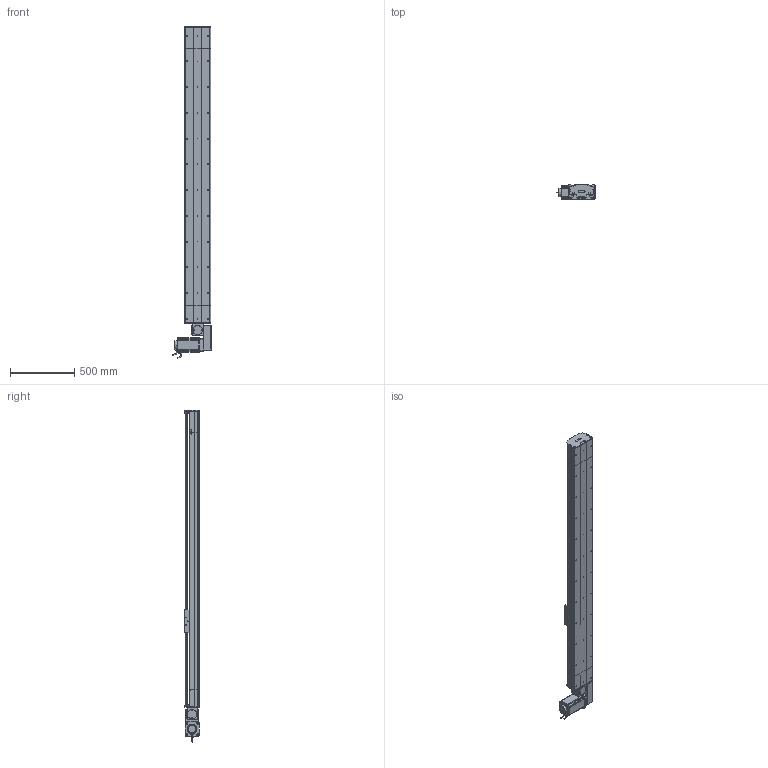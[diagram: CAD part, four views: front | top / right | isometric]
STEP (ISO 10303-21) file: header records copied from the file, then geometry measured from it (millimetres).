
FILE_DESCRIPTION (( 'STEP AP214' ), '1' );
FILE_NAME ('D20 TBH LH S2000.STEP', '2010-07-01T07:47:28', ( 'Conseil Régional Haute-Normandie' ), ( 'Conseil Régional Haute-Normandie' ), 'SwSTEP 2.0', 'SolidWorks 2010', '' );
FILE_SCHEMA (( 'AUTOMOTIVE_DESIGN' ));
Length unit declared in the file: millimetre
Products named in the file (40): rail + couroie  D20 S2000; couroie_Default; head LH_Default; plaque de  bout head D20B LH_Default; poulie head D20_Default; couvercle head D20_Default; rail head D20; corpl head D20_Default; vis M5 L8 90°_Default; cache D20_Default; cache arbre D20_Default; tail D20_Default; vis M8 L12_Default; avant 110BLDC170A-630x; vis M5 L12_Default; tete d''axe poulie D20B; corps 110BLDC170A-630x; rail tail D20; clavette; Conecteur_Default; Conecteur2_Default; vis M5 L70_Default; Plaque racord D20LH_Default; plaque de  bout tail D20_Default; poulie tail D20_Default; codeur 110BLDC170A-630x; couvercle tail D20_Default; Couroie tail D20_Default; Moteur motionking 110BLDC170A-640x; Renvoi LH D20_Default; vis M5 L5_Default; corpl tail D20_Default; vis M5 L25_Default; corp D20 S2000_Default; Course B L2000_Default; Chariot D20B; chariot D20B_Default; couvercle D20 S2000_Default; D20 TBH LH S2000; guide D20B
Assembly tree (71 placements, depth 4):
  D20 TBH LH S2000
    Course B L2000_Default
      couvercle D20 S2000_Default
      rail + couroie  D20 S2000
      corp D20 S2000_Default
    tail D20_Default
      vis M5 L8 90°_Default  x2
      vis M5 L25_Default  x2
      vis M5 L12_Default  x4
      Couroie tail D20_Default
      corpl tail D20_Default
      poulie tail D20_Default
      rail tail D20
      plaque de  bout tail D20_Default
      tete d''axe poulie D20B
      couvercle tail D20_Default
    chariot D20B_Default
      vis M5 L12_Default  x4
      guide D20B  x2
      Chariot D20B
    head LH_Default
      vis M5 L12_Default  x10
      vis M5 L5_Default  x4
      couvercle head D20_Default
      vis M5 L70_Default  x4
      Moteur motionking 110BLDC170A-640x
        Conecteur2_Default
        clavette
        codeur 110BLDC170A-630x
        Conecteur_Default
        corps 110BLDC170A-630x
        avant 110BLDC170A-630x
      poulie head D20_Default
      rail head D20
      corpl head D20_Default
      cache D20_Default  x2
      Renvoi LH D20_Default
      vis M8 L12_Default  x4
      couroie_Default
      vis M5 L25_Default  x2
      plaque de  bout head D20B LH_Default
      cache arbre D20_Default
      Plaque racord D20LH_Default
Bounding box: 304.2 x 115.7 x 2580 mm (x, y, z)
Volume: 20280912 mm3; surface area: 4888459.8 mm2
Topology: 95 solids, 95 shells, 2774 faces, 7032 edges, 4539 vertices
Faces by surface type: plane 1625, cylinder 825, bspline 136, cone 99, torus 89
Entity records: 87891 total; most frequent: CARTESIAN_POINT 28265, ORIENTED_EDGE 10720, DIRECTION 10119, EDGE_CURVE 5360, VERTEX_POINT 3525, LINE 3465, VECTOR 3465, AXIS2_PLACEMENT_3D 3327
